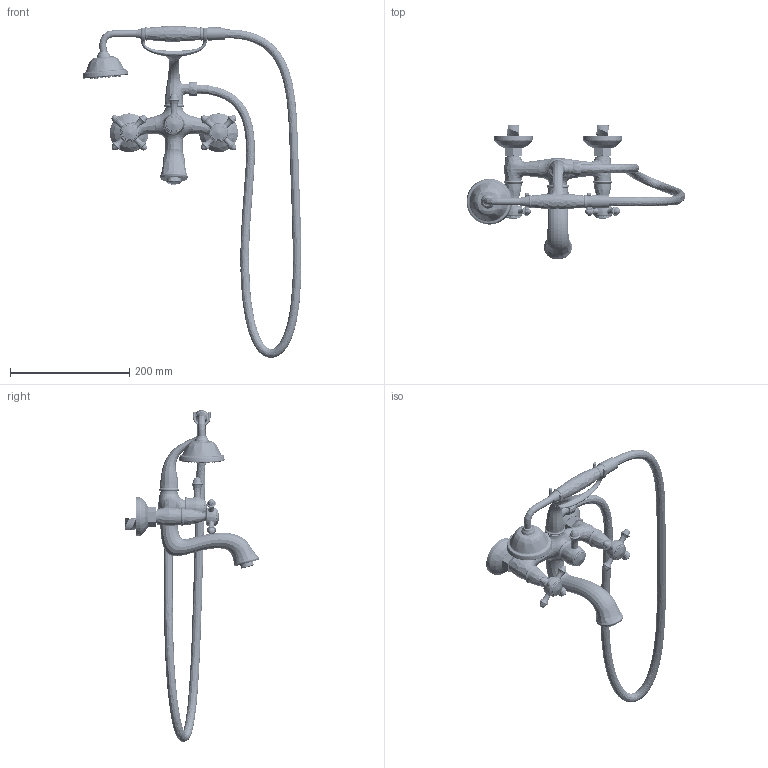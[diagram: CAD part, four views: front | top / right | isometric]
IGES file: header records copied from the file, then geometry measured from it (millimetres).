
Global section: file name: b8559049-99e5-4f2b-be8d-fb179642d7f8; native system: unknown; preprocessor: unknown; author: unknown; organization: unknown; date: 20191217.101126; units: millimetre
Bounding box: 367.31 x 226.17 x 556.96 mm (x, y, z)
Volume: 672605.3 mm3; surface area: 318668.3 mm2
Topology: 50 solids, 50 shells, 3911 faces, 11158 edges, 7483 vertices
Faces by surface type: bspline 3911
